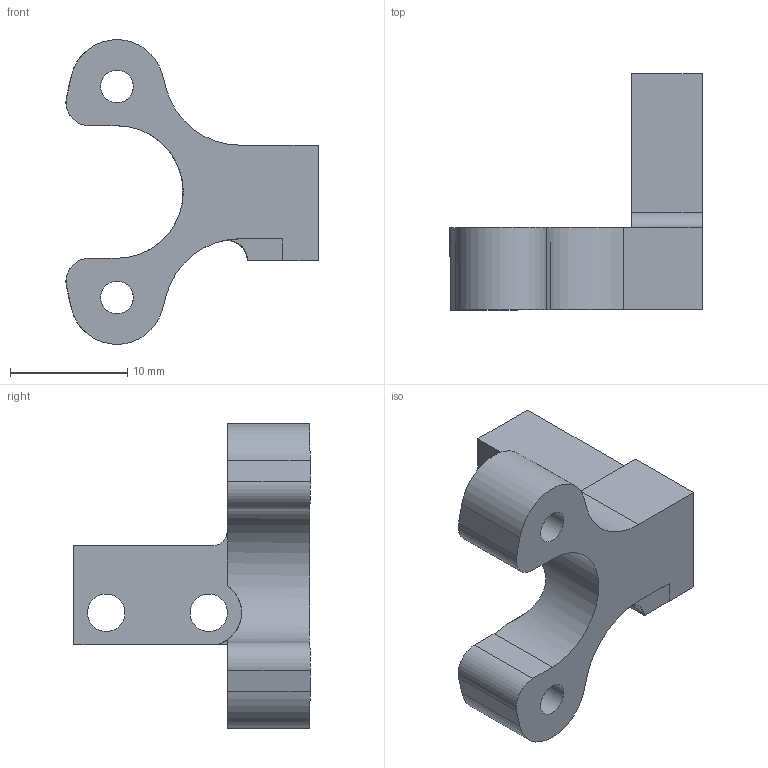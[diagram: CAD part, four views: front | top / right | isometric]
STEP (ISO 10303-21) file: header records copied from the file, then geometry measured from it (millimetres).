
FILE_DESCRIPTION(/* description */ (''),/* implementation_level */ '2;1');
FILE_NAME(/* name */ 'BLTouch_Holder.step',/* time_stamp */ '2024-01-21T15:53:38+01:00',/* author */ (''),/* organization */ (''),/* preprocessor_version */ 'ST-DEVELOPER v20',/* originating_system */ 'Autodesk Translation Framework v12.14.0.127',/* authorisation */ '');
FILE_SCHEMA (('AUTOMOTIVE_DESIGN { 1 0 10303 214 3 1 1 }'));
Length unit declared in the file: millimetre
Products named in the file (1): BLTouch_Holder
Bounding box: 21.52 x 20.14 x 26 mm (x, y, z)
Volume: 2098.9 mm3; surface area: 1745.5 mm2
Topology: 1 solids, 1 shells, 33 faces, 92 edges, 61 vertices
Faces by surface type: plane 18, cylinder 14, bspline 1
Full cylindrical faces by diameter (mm): 2.8 x2, 3.2 x2
Entity records: 1220 total; most frequent: CARTESIAN_POINT 320, ORIENTED_EDGE 184, DIRECTION 176, EDGE_CURVE 92, VERTEX_POINT 61, AXIS2_PLACEMENT_3D 61, LINE 54, VECTOR 54
